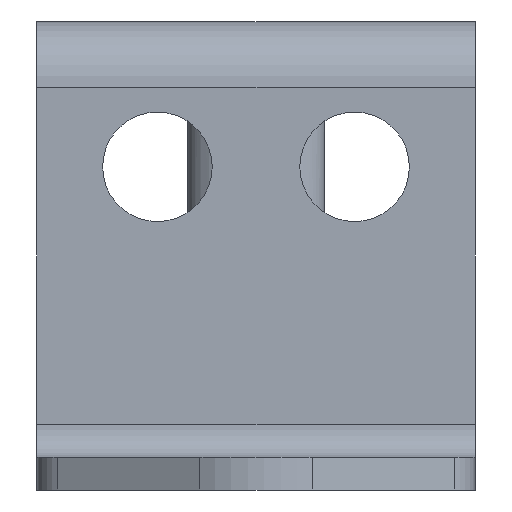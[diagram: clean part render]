
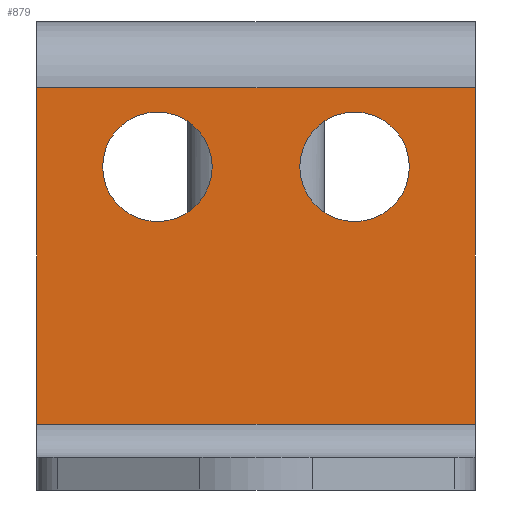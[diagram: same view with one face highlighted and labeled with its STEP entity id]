
A CAD part, left-side view. The second image highlights one B-rep face of the part: STEP entity #879.
In plain terms, the highlighted planar face has unit normal (-1, 0, 0).
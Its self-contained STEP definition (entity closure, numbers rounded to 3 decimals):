
#48=FACE_BOUND('',#130,.T.);
#49=FACE_BOUND('',#131,.T.);
#70=FACE_OUTER_BOUND('',#129,.T.);
#129=EDGE_LOOP('',(#686,#687,#688,#689));
#130=EDGE_LOOP('',(#690));
#131=EDGE_LOOP('',(#691));
#191=CIRCLE('',#978,10.);
#192=CIRCLE('',#979,10.);
#236=LINE('',#1402,#315);
#244=LINE('',#1427,#323);
#247=LINE('',#1435,#326);
#248=LINE('',#1436,#327);
#315=VECTOR('',#1122,10.);
#323=VECTOR('',#1150,8.64);
#326=VECTOR('',#1161,10.);
#327=VECTOR('',#1162,8.64);
#415=VERTEX_POINT('',#1400);
#416=VERTEX_POINT('',#1401);
#423=VERTEX_POINT('',#1425);
#424=VERTEX_POINT('',#1434);
#425=VERTEX_POINT('',#1437);
#426=VERTEX_POINT('',#1439);
#502=EDGE_CURVE('',#415,#416,#236,.T.);
#516=EDGE_CURVE('',#423,#415,#244,.T.);
#519=EDGE_CURVE('',#424,#423,#247,.T.);
#520=EDGE_CURVE('',#424,#416,#248,.T.);
#521=EDGE_CURVE('',#425,#425,#191,.T.);
#522=EDGE_CURVE('',#426,#426,#192,.T.);
#686=ORIENTED_EDGE('',*,*,#519,.T.);
#687=ORIENTED_EDGE('',*,*,#516,.T.);
#688=ORIENTED_EDGE('',*,*,#502,.T.);
#689=ORIENTED_EDGE('',*,*,#520,.F.);
#690=ORIENTED_EDGE('',*,*,#521,.T.);
#691=ORIENTED_EDGE('',*,*,#522,.T.);
#846=PLANE('',#977);
#879=ADVANCED_FACE('',(#70,#48,#49),#846,.T.);
#977=AXIS2_PLACEMENT_3D('',#1433,#1159,#1160);
#978=AXIS2_PLACEMENT_3D('',#1438,#1163,#1164);
#979=AXIS2_PLACEMENT_3D('',#1440,#1165,#1166);
#1122=DIRECTION('',(0.,-1.,0.));
#1150=DIRECTION('',(0.,0.,-1.));
#1159=DIRECTION('center_axis',(-1.,0.,0.));
#1160=DIRECTION('ref_axis',(0.,0.,1.));
#1161=DIRECTION('',(0.,1.,0.));
#1162=DIRECTION('',(0.,0.,-1.));
#1163=DIRECTION('center_axis',(1.,0.,0.));
#1164=DIRECTION('ref_axis',(0.,0.,1.));
#1165=DIRECTION('center_axis',(1.,0.,0.));
#1166=DIRECTION('ref_axis',(0.,0.,1.));
#1400=CARTESIAN_POINT('',(-6.,40.,12.));
#1401=CARTESIAN_POINT('',(-6.,-40.,12.));
#1402=CARTESIAN_POINT('',(-6.,0.,12.));
#1425=CARTESIAN_POINT('',(-6.,40.,73.45));
#1427=CARTESIAN_POINT('',(-6.,40.,-15.143));
#1433=CARTESIAN_POINT('Origin',(-6.,0.,41.939));
#1434=CARTESIAN_POINT('',(-6.,-40.,73.45));
#1435=CARTESIAN_POINT('',(-6.,-20.,73.45));
#1436=CARTESIAN_POINT('',(-6.,-40.,-15.143));
#1437=CARTESIAN_POINT('',(-6.,-18.,49.));
#1438=CARTESIAN_POINT('Origin',(-6.,-18.,59.));
#1439=CARTESIAN_POINT('',(-6.,18.,49.));
#1440=CARTESIAN_POINT('Origin',(-6.,18.,59.));
